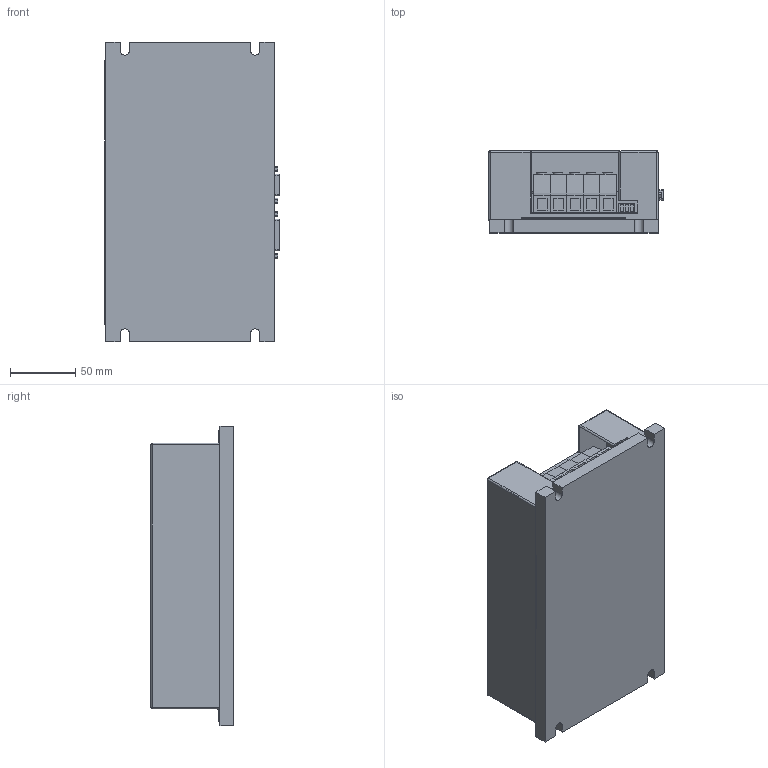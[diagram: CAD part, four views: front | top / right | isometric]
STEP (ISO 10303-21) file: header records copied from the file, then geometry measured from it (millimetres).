
FILE_DESCRIPTION (( 'STEP AP214' ), '1' );
FILE_NAME ('80160.stp', '2022-08-16T02:01:34', ( '' ), ( '' ), 'SwSTEP 2.0', 'SolidWorks 2018', '' );
FILE_SCHEMA (( 'AUTOMOTIVE_DESIGN' ));
Length unit declared in the file: millimetre
Products named in the file (23): 2235; DB26WAN; KONGZHIBAN_ASM; CSNP661; DUANZI111; LAN; PIN-1; LED2; DB9WAN; GONGLVVAN80_ASM; SANRENQI120X55; IRFP4468; 80160; 80AWAIKE; 4PINKAIGUAN; 40PIN-1_ASM; DIYAKONGZHIBAN; 80AGONGLVBAN; DCDC; 3PIN; 65ADUANZI; PIN-2; 40PIN-2_ASM
Assembly tree (122 placements, depth 4):
  80160
    SANRENQI120X55
    GONGLVVAN80_ASM
      80AGONGLVBAN
      2235  x6
      65ADUANZI  x5
      CSNP661  x3
      3PIN
      40PIN-2_ASM
        PIN-2  x40
      IRFP4468  x12
    80AWAIKE
    KONGZHIBAN_ASM
      DIYAKONGZHIBAN
      DB9WAN
      DB26WAN
      LED2
      40PIN-1_ASM
        PIN-1  x40
      4PINKAIGUAN
      DCDC
      DUANZI111
      LAN
Bounding box: 134 x 63 x 230 mm (x, y, z)
Volume: 615057.7 mm3; surface area: 333933.9 mm2
Topology: 78 solids, 198 shells, 2626 faces, 6344 edges, 4260 vertices
Faces by surface type: plane 2151, cylinder 438, sphere 25, torus 12
Entity records: 34056 total; most frequent: CARTESIAN_POINT 4291, DIRECTION 4267, ORIENTED_EDGE 3888, EDGE_CURVE 1948, LINE 1495, VECTOR 1495, AXIS2_PLACEMENT_3D 1386, VERTEX_POINT 1292
